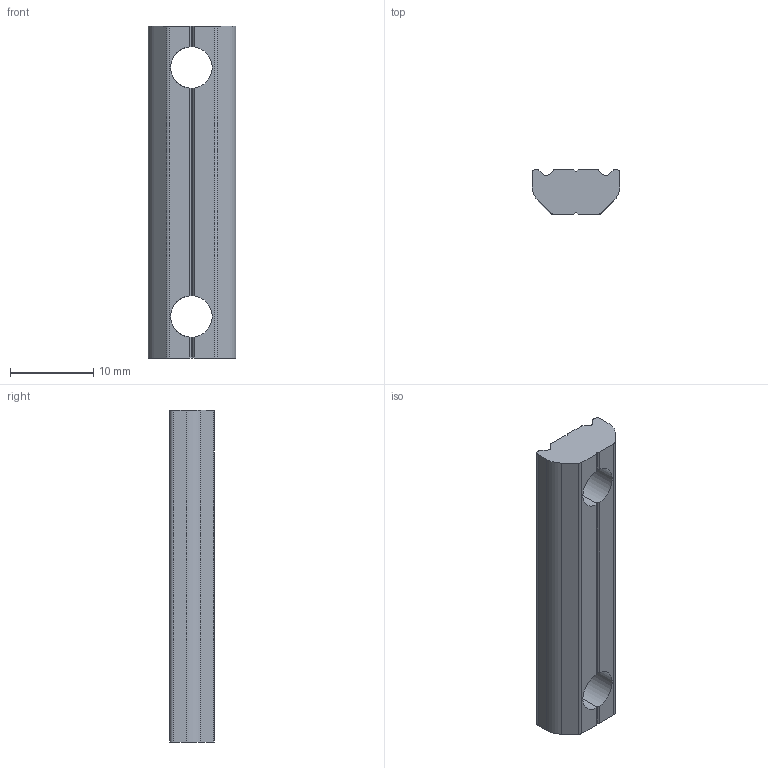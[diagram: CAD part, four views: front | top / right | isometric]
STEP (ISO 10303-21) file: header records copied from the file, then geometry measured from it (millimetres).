
FILE_DESCRIPTION (( 'STEP AP214' ), '1' );
FILE_NAME ('PTN-M5P30.STEP', '2019-10-30T02:26:07', ( '微软用户' ), ( '微软中国' ), 'SwSTEP 2.0', 'SolidWorks 2016', '' );
FILE_SCHEMA (( 'AUTOMOTIVE_DESIGN' ));
Length unit declared in the file: millimetre
Products named in the file (1): PTN-M5P30
Bounding box: 10.6 x 5.4 x 40 mm (x, y, z)
Volume: 1765.2 mm3; surface area: 1386.6 mm2
Topology: 1 solids, 1 shells, 52 faces, 154 edges, 100 vertices
Faces by surface type: plane 30, cylinder 22
Entity records: 1884 total; most frequent: CARTESIAN_POINT 485, ORIENTED_EDGE 308, DIRECTION 272, EDGE_CURVE 154, VERTEX_POINT 100, AXIS2_PLACEMENT_3D 91, LINE 90, VECTOR 90
